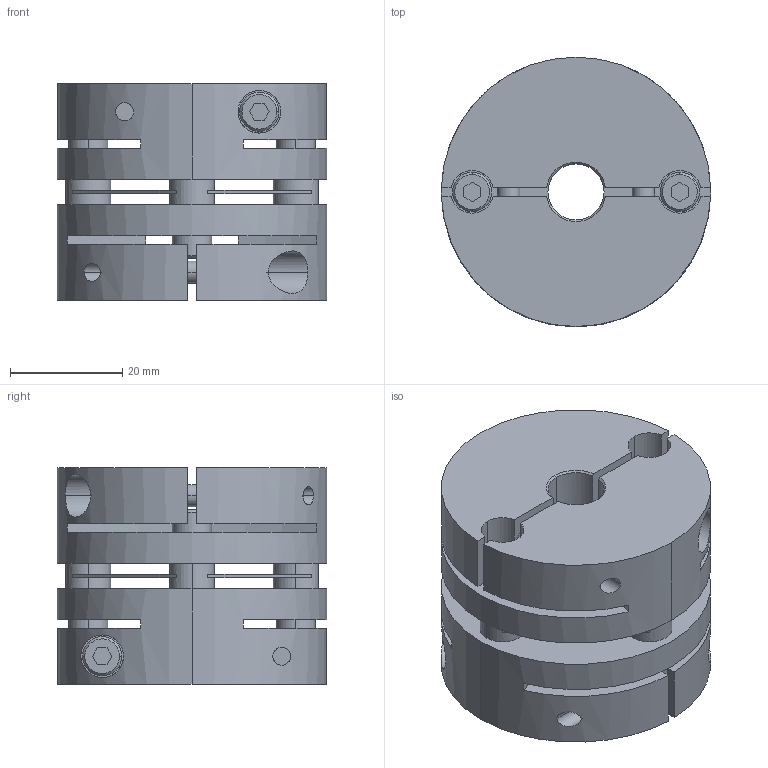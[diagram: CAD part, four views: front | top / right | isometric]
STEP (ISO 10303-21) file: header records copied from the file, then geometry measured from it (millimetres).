
FILE_DESCRIPTION((''),'2;1');
FILE_NAME('LAS-48C-10×19.stp','2015-10-14T15:40:11',(''),(''),'AutoCAD STEP 2000i','AutoCAD 2000i',', , ');
FILE_SCHEMA(('CONFIG_CONTROL_DESIGN'));
Length unit declared in the file: millimetre
Products named in the file (6): LAS-48C-12×19; 忣兜1; LA-4802-D19; LA-4802-D12-1; LA-4802-D12; LAS48-ITA
Assembly tree (5 placements, depth 2):
  LAS-48C-12×19
    忣兜1
    LA-4802-D19
    LA-4802-D12-1
    LA-4802-D12
    LAS48-ITA
Bounding box: 48 x 48 x 38.6 mm (x, y, z)
Volume: 49897.8 mm3; surface area: 22320.9 mm2
Topology: 1 solids, 1 shells, 224 faces, 600 edges, 392 vertices
Faces by surface type: plane 112, cylinder 84, cone 28
Entity records: 7841 total; most frequent: CARTESIAN_POINT 1878, DIRECTION 1256, ORIENTED_EDGE 1200, EDGE_CURVE 600, AXIS2_PLACEMENT_3D 458, VERTEX_POINT 392, VECTOR 340, LINE 340
